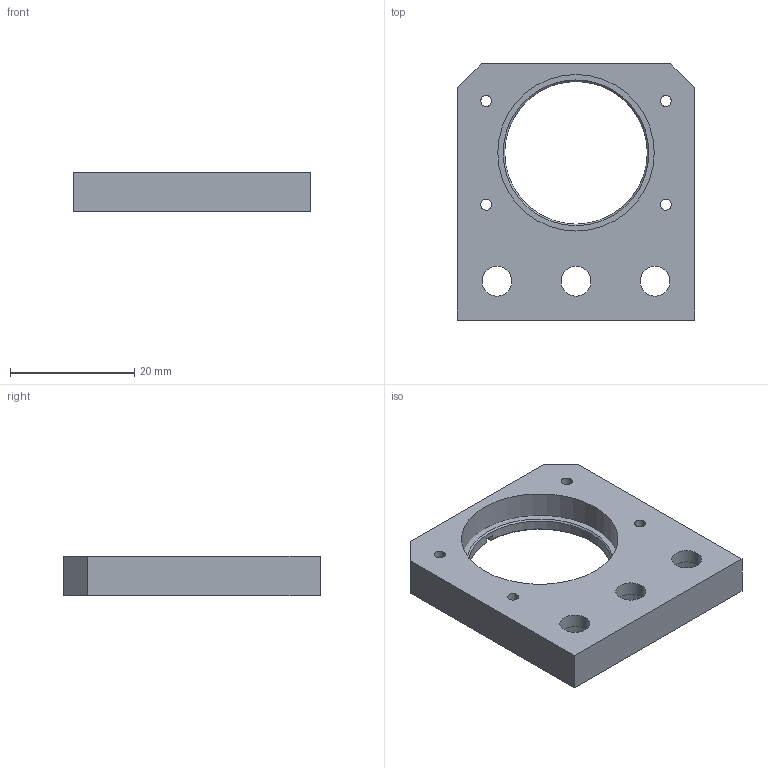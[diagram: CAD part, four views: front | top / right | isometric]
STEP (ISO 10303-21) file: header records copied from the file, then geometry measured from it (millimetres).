
FILE_DESCRIPTION (( 'STEP AP203' ), '1' );
FILE_NAME ('18316-E0W.STEP', '2013-02-13T20:25:48', ( 'Admin' ), ( '' ), 'SwSTEP 2.0', 'SolidWorks 2012', '' );
FILE_SCHEMA (( 'CONFIG_CONTROL_DESIGN' ));
Length unit declared in the file: inch
Products named in the file (1): 18316-E0W
Bounding box: 38.1 x 41.15 x 6.35 mm (x, y, z)
Volume: 6133.3 mm3; surface area: 4552.5 mm2
Topology: 2 solids, 2 shells, 317 faces, 855 edges, 568 vertices
Faces by surface type: plane 178, bspline 101, cylinder 26, cone 12
Entity records: 12628 total; most frequent: CARTESIAN_POINT 5210, ORIENTED_EDGE 1710, DIRECTION 1139, EDGE_CURVE 855, VERTEX_POINT 568, VECTOR 561, LINE 561, EDGE_LOOP 361
